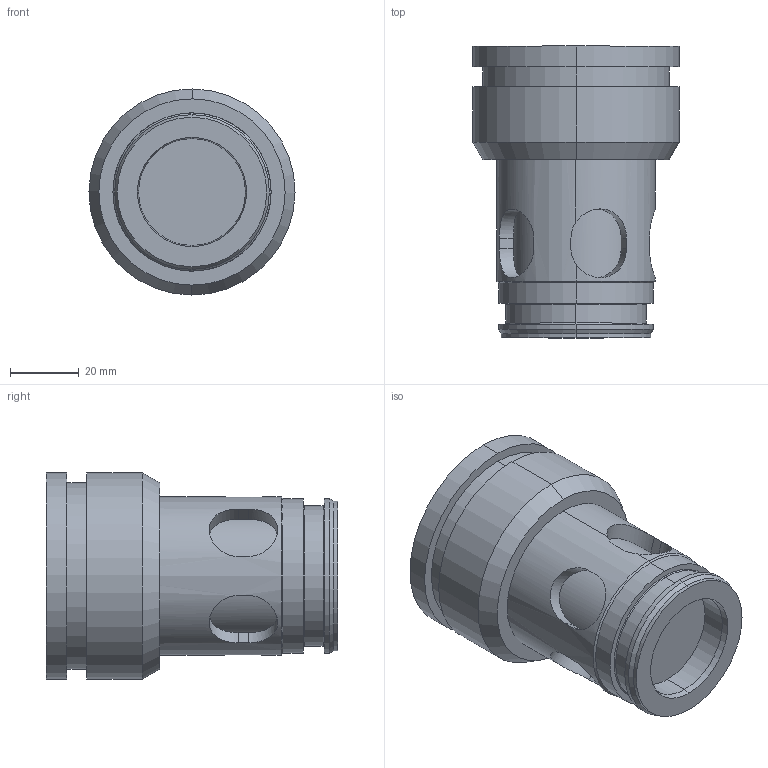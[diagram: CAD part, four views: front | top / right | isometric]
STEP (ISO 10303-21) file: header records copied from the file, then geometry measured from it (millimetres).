
FILE_DESCRIPTION (( 'STEP AP214' ), '1' );
FILE_NAME ('C.EN32-10.STEP', '2018-10-10T09:30:19', ( '' ), ( '' ), 'SwSTEP 2.0', 'SolidWorks 2016', '' );
FILE_SCHEMA (( 'AUTOMOTIVE_DESIGN' ));
Length unit declared in the file: millimetre
Products named in the file (2): C.EN32-10
Bounding box: 60 x 84.9 x 60 mm (x, y, z)
Volume: 146590.6 mm3; surface area: 32686 mm2
Topology: 2 solids, 2 shells, 82 faces, 179 edges, 114 vertices
Faces by surface type: cylinder 46, plane 24, cone 8, torus 4
Entity records: 4079 total; most frequent: CARTESIAN_POINT 1297, DIRECTION 393, ORIENTED_EDGE 358, EDGE_CURVE 179, AXIS2_PLACEMENT_3D 156, VERTEX_POINT 114, EDGE_LOOP 97, UNCERTAINTY_MEASURE_WITH_UNIT 86
